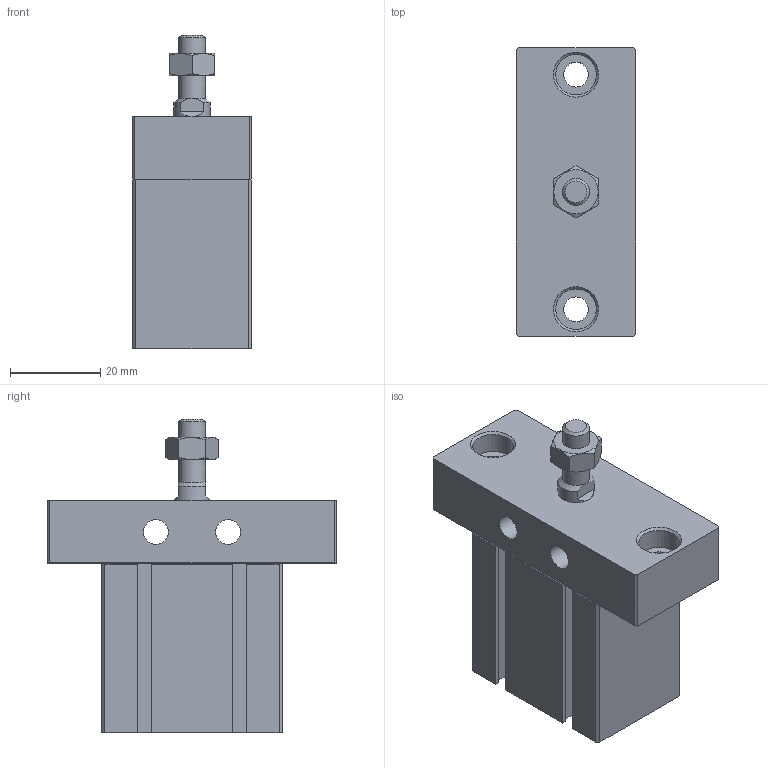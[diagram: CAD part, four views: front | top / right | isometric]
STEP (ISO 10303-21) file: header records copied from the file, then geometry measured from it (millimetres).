
FILE_DESCRIPTION((''),'2;1');
FILE_NAME('J:\3D電子目錄\氣缸\ND\ND\ND20-FB\ND20x10-FB.stp','2008-03-12T17:20:33',('66-2f-008'),(''),'Autodesk Inventor 11','Autodesk Inventor 11','');
FILE_SCHEMA(('AUTOMOTIVE_DESIGN { 1 0 10303 214 1 1 1 1 }'));
Length unit declared in the file: millimetre
Products named in the file (1): ND20-FB
Bounding box: 26.4 x 64 x 69.5 mm (x, y, z)
Volume: 56534.6 mm3; surface area: 15791.2 mm2
Topology: 2 solids, 2 shells, 128 faces, 330 edges, 211 vertices
Faces by surface type: plane 85, cylinder 16, bspline 14, cone 12, torus 1
Full cylindrical faces by diameter (mm): 1.5 x2, 5.5 x2, 6 x2, 9 x2, 13 x1, 21 x1
Entity records: 3810 total; most frequent: CARTESIAN_POINT 843, ORIENTED_EDGE 588, DIRECTION 572, EDGE_CURVE 294, VECTOR 214, LINE 214, VERTEX_POINT 206, EDGE_LOOP 180
